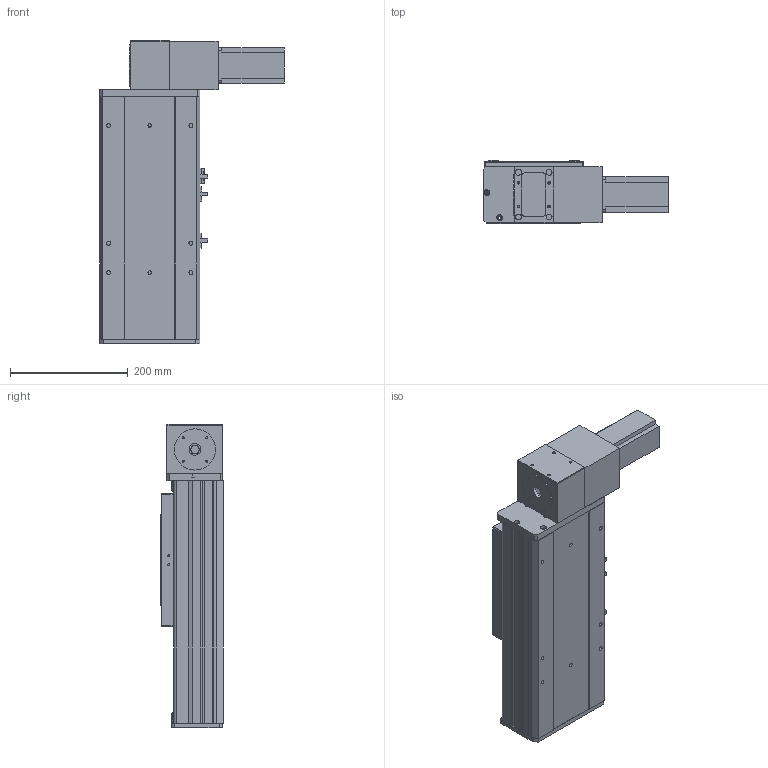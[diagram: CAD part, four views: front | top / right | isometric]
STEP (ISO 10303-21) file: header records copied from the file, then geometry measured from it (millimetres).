
FILE_DESCRIPTION (( 'STEP AP203' ), '1' );
FILE_NAME ('Y170CB-D105-S100-BD-P400W.STEP', '2020-02-20T08:01:49', ( '微软用户' ), ( '微软中国' ), 'SwSTEP 2.0', 'SolidWorks 2017', '' );
FILE_SCHEMA (( 'CONFIG_CONTROL_DESIGN' ));
Length unit declared in the file: millimetre
Products named in the file (16): 70B喘謫眊----; 70C--詩湍揤踡え-; 70CB--耜裔; 70C-雄赽釱-奻-; 0C--雄赽釱俋欶-170; B-源倛裔啣; 70CB-詩湍--; 0B薊粣ん眊-400W--; san松下电机400不带刹车----; Y170CB-D105-S100-BD-P400W; Y100-135俋离換覜ん--; 70CB-掛极-; Y170CB-陔俋离換覜結え---; --70CB --喘謫眊楊擘啣-; Y1埴倛裔; 70CB-耜裔啣-
Assembly tree (19 placements, depth 2):
  Y170CB-D105-S100-BD-P400W
    B-源倛裔啣
    san松下电机400不带刹车----
    70CB-掛极-
    --70CB --喘謫眊楊擘啣-
    70CB-耜裔啣-  x2
    70C--詩湍揤踡え-  x2
    70CB--耜裔
    70C-雄赽釱-奻-
    0C--雄赽釱俋欶-170
    70CB-詩湍--
    Y100-135俋离換覜ん--  x3
    Y170CB-陔俋离換覜結え---
    Y1埴倛裔
    70B喘謫眊----
    0B薊粣ん眊-400W--
Bounding box: 313.5 x 107 x 516 mm (x, y, z)
Volume: 3282626.4 mm3; surface area: 1025816.6 mm2
Topology: 19 solids, 19 shells, 888 faces, 2330 edges, 1544 vertices
Faces by surface type: cylinder 442, plane 422, cone 24
Entity records: 27551 total; most frequent: CARTESIAN_POINT 5086, DIRECTION 4479, ORIENTED_EDGE 4142, EDGE_CURVE 2071, AXIS2_PLACEMENT_3D 1641, VERTEX_POINT 1374, VECTOR 1197, LINE 1197
